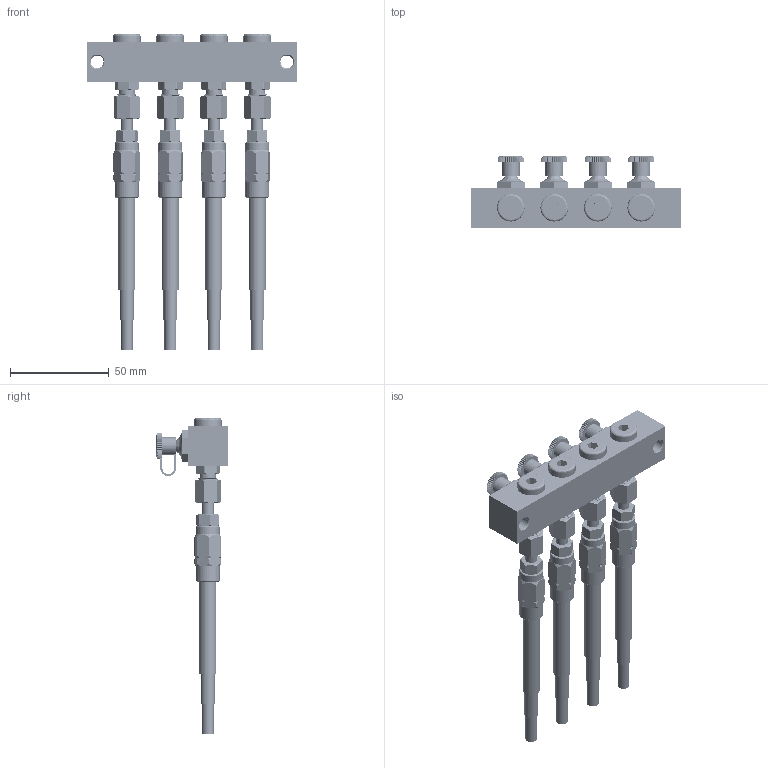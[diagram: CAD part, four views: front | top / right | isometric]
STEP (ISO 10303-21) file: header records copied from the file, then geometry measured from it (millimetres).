
FILE_DESCRIPTION (( 'STEP AP214' ), '1' );
FILE_NAME ('1460_0104_HS1.STEP', '2026-01-21T14:11:25', ( '' ), ( '' ), 'SwSTEP 2.0', 'SolidWorks 2022', '' );
FILE_SCHEMA (( 'AUTOMOTIVE_DESIGN' ));
Length unit declared in the file: millimetre
Products named in the file (19): 1460_0104_HS1; schmiernippel_M10_1; 749-M10X1-A; Schmiernippel_Staubkappe; HD_Schlauch_Ansicht; Rohrstutzen; POLY_6_4_gerade; 991214010601_Schneidring; Staubkappe; 991214010601_Koerper; HD_Schlauch_Aussenteil; 991214010601; Schraubhülse; 991214010601_Mutter; Staubkappe_Fettnippel; Lasche_Staubkappe; 1460_01_04_ASL-04; HD_Schlauch_Mittelteil; Rohrstutzen_Schraubhuelse
Assembly tree (27 placements, depth 4):
  1460_0104_HS1
    1460_01_04_ASL-04
    Rohrstutzen_Schraubhuelse  x4
      Rohrstutzen
      Schraubhülse
      HD_Schlauch_Ansicht
        HD_Schlauch_Aussenteil
        HD_Schlauch_Mittelteil
        POLY_6_4_gerade
      991214010601
        991214010601_Koerper
        991214010601_Schneidring
        991214010601_Mutter
    Schmiernippel_Staubkappe  x4
      schmiernippel_M10_1
      Staubkappe_Fettnippel
        Lasche_Staubkappe
        Staubkappe
    749-M10X1-A  x4
Bounding box: 106 x 36 x 159.6 mm (x, y, z)
Volume: 73987.4 mm3; surface area: 83002.1 mm2
Topology: 45 solids, 53 shells, 1520 faces, 3900 edges, 2554 vertices
Faces by surface type: plane 782, cylinder 356, bspline 194, cone 188
Full cylindrical faces by diameter (mm): 1.5 x4, 3 x4, 4 x4, 4.5 x4, 5 x4, 6 x48, 6.01 x4, 6.2 x4, 6.495 x4, 6.5 x2, 7 x4, 7.01 x4, 7.4 x4, 7.67 x4, 8 x60, 8.3 x4, 8.4 x4, 8.6 x4, 9 x8, 9.8 x28, 10 x8, 11.9 x4, 12 x8, 14 x4
Entity records: 59261 total; most frequent: CARTESIAN_POINT 48644, ORIENTED_EDGE 2351, DIRECTION 1528, EDGE_CURVE 1177, VERTEX_POINT 814, EDGE_LOOP 597, AXIS2_PLACEMENT_3D 573, FACE_OUTER_BOUND 507
